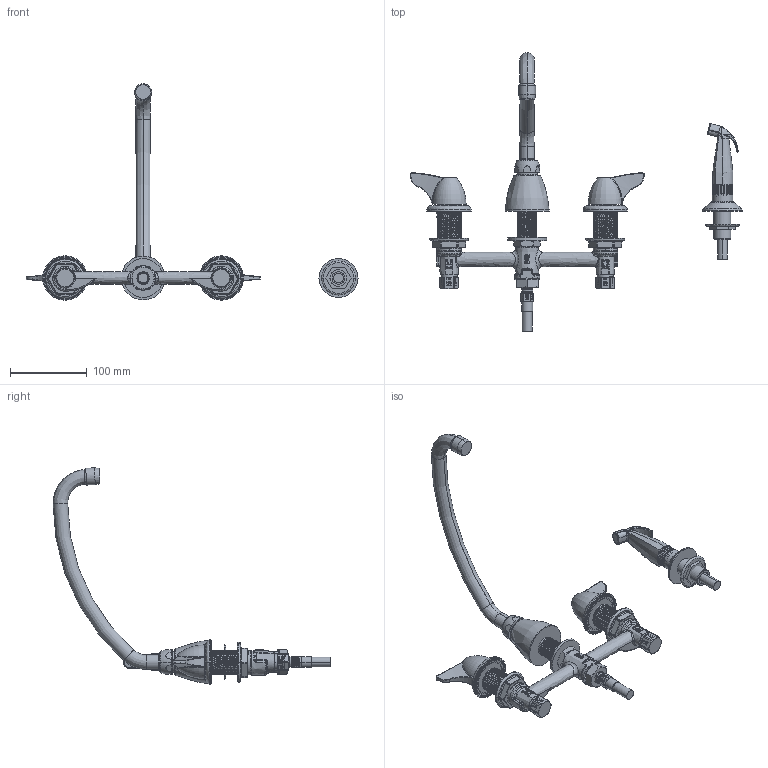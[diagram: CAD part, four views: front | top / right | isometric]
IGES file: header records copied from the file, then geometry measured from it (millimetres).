
Start section:  PTC IGES file: 200-AE35-1000AB.igs
Global section: file name: 200-AE35-1000AB.igs; native system: Creo Parametric by PTC Inc.; preprocessor: 2017260; author: usch_engrender; organization: Unknown; date: 20180601.114737; units: inch
Bounding box: 431.8 x 361.52 x 281.38 mm (x, y, z)
Surface area: 169075.7 mm2 (no closed solid volume)
Topology: 0 solids, 89 shells, 1238 faces, 3515 edges, 2312 vertices
Faces by surface type: revolution 689, bspline 544, extrusion 5
